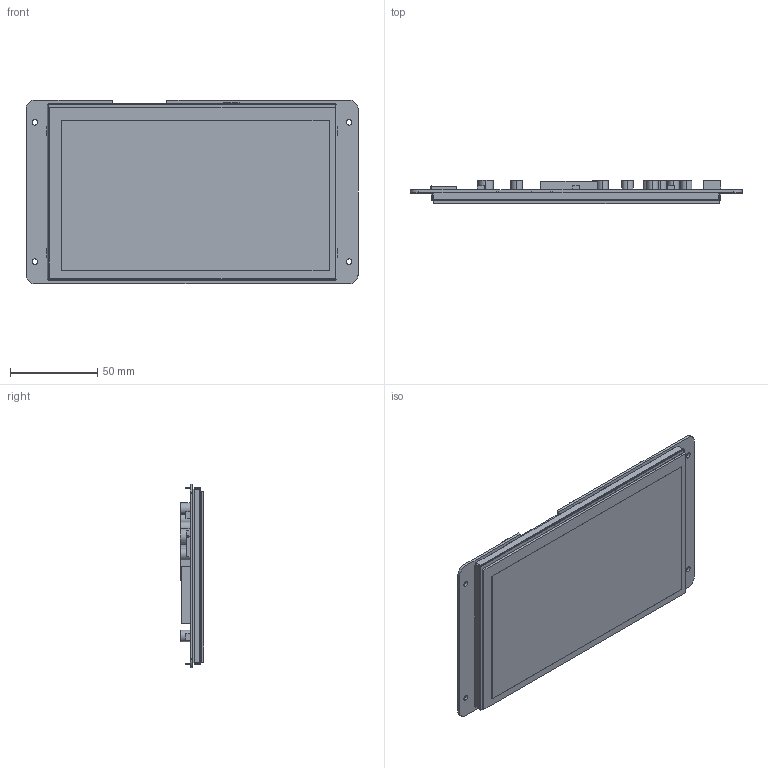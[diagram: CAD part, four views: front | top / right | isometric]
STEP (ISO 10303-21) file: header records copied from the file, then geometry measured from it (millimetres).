
FILE_DESCRIPTION (( 'STEP AP214' ), '1' );
FILE_NAME ('DMG10600T070-01WTR 3D.STEP', '2023-09-15T09:00:02', ( '' ), ( 'Microsoft' ), 'SwSTEP 2.0', 'SolidWorks 2017', '' );
FILE_SCHEMA (( 'AUTOMOTIVE_DESIGN' ));
Length unit declared in the file: millimetre
Products named in the file (5): LI10600T070HA3004-W(M02258); YF07002?V1?軞傖芞; TK070019; DMG10600T070-01W; DMG10600T070-01WTR  3D
Assembly tree (4 placements, depth 2):
  DMG10600T070-01WTR  3D
    DMG10600T070-01W
    TK070019
    YF07002?V1?軞傖芞
    LI10600T070HA3004-W(M02258)
Bounding box: 190.5 x 13.38 x 105.41 mm (x, y, z)
Volume: 118631.6 mm3; surface area: 122134.8 mm2
Topology: 4 solids, 4 shells, 390 faces, 1063 edges, 698 vertices
Faces by surface type: plane 230, cylinder 152, bspline 8
Entity records: 16447 total; most frequent: CARTESIAN_POINT 2386, ORIENTED_EDGE 2126, DIRECTION 2109, EDGE_CURVE 1063, VECTOR 755, LINE 755, VERTEX_POINT 698, AXIS2_PLACEMENT_3D 677
